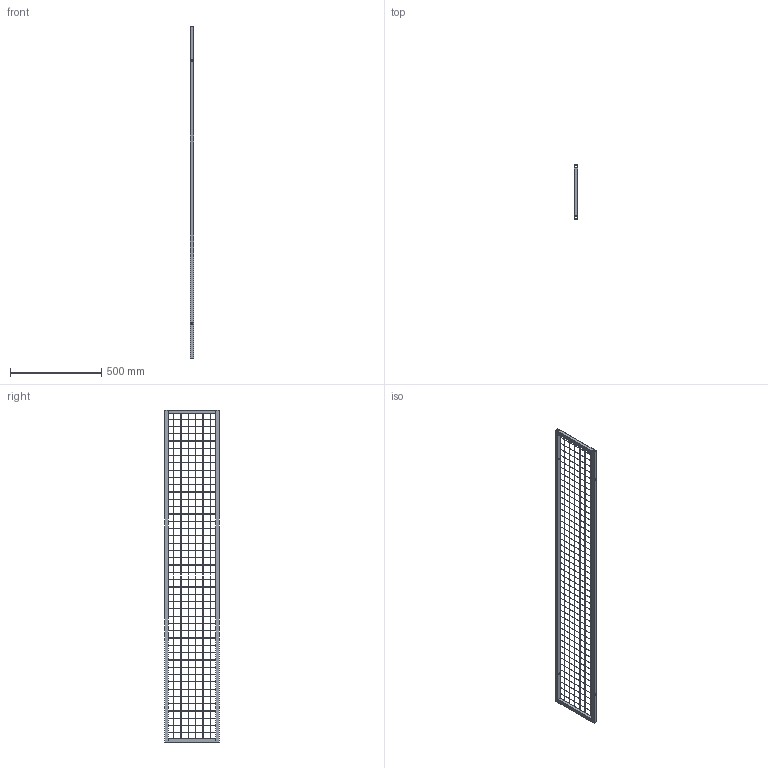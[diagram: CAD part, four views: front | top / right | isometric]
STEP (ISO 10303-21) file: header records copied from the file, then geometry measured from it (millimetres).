
FILE_DESCRIPTION (( 'STEP AP203' ), '1' );
FILE_NAME ('300.STEP', '2023-03-14T02:13:09', ( '504148165@qq.com' ), ( '' ), 'SwSTEP 2.0', 'SolidWorks 2021', '' );
FILE_SCHEMA (( 'CONFIG_CONTROL_DESIGN' ));
Length unit declared in the file: millimetre
Products named in the file (4): 300厙え; 1820; 300
Assembly tree (5 placements, depth 2):
  300
    1820  x2
    300  x2
    300厙え
Bounding box: 21 x 300 x 1820 mm (x, y, z)
Volume: 620903.4 mm3; surface area: 692018 mm2
Topology: 54 solids, 54 shells, 356 faces, 744 edges, 496 vertices
Faces by surface type: plane 340, cylinder 16
Entity records: 8856 total; most frequent: CARTESIAN_POINT 1456, DIRECTION 1360, ORIENTED_EDGE 1344, EDGE_CURVE 672, LINE 656, VECTOR 656, VERTEX_POINT 448, AXIS2_PLACEMENT_3D 352
